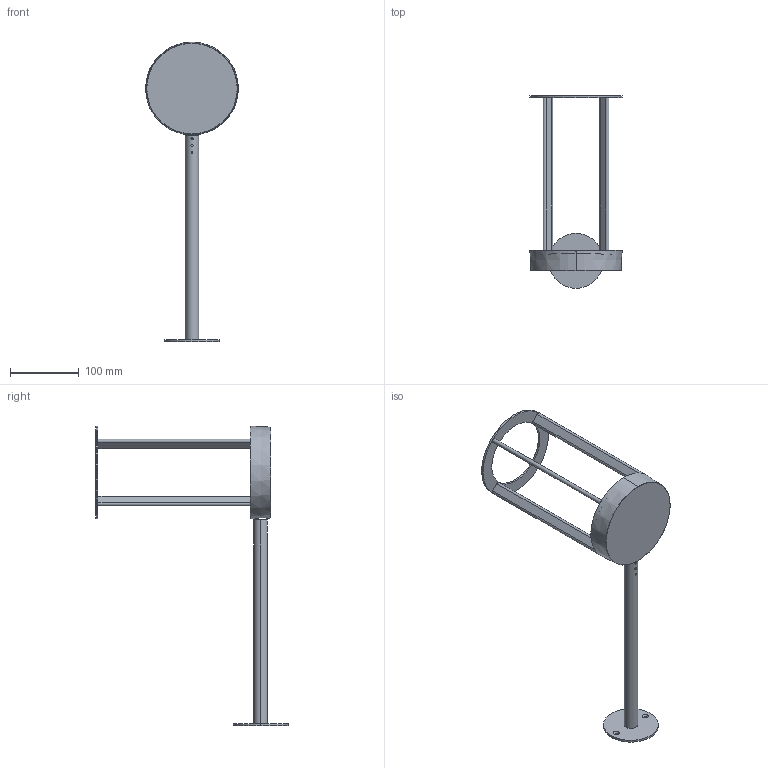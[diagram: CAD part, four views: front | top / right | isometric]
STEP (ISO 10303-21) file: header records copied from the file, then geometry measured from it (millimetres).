
FILE_DESCRIPTION((''),'2;1');
FILE_NAME('DISTANZIATORE-PARETE_SW0002','2025-07-24T08:48:32',('Piccioli'),(''),'CREO PARAMETRIC BY PTC INC, 2025010','CREO PARAMETRIC BY PTC INC, 2025010','');
FILE_SCHEMA(('CONFIG_CONTROL_DESIGN'));
Length unit declared in the file: millimetre
Products named in the file (1): DISTANZIATORE-PARETE_SW0002
Bounding box: 135 x 280 x 436.5 mm (x, y, z)
Surface area: 143442.3 mm2 (no closed solid volume)
Topology: 0 solids, 28 shells, 76 faces, 570 edges, 520 vertices
Faces by surface type: plane 36, cone 18, cylinder 14, torus 8
Entity records: 7856 total; most frequent: CARTESIAN_POINT 4074, ORIENTED_EDGE 658, DIRECTION 604, EDGE_CURVE 570, VERTEX_POINT 520, B_SPLINE_CURVE_WITH_KNOTS 254, AXIS2_PLACEMENT_3D 212, VECTOR 180
